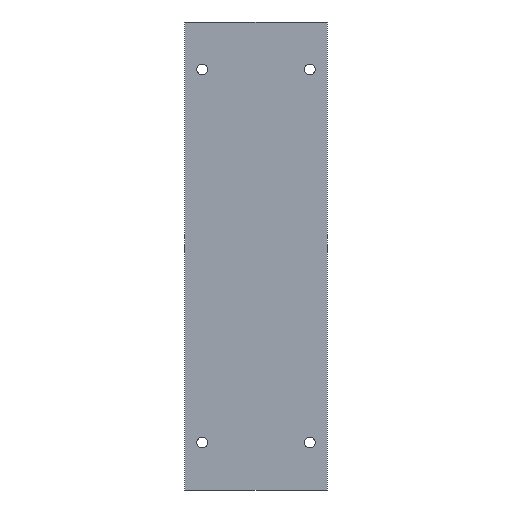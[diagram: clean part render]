
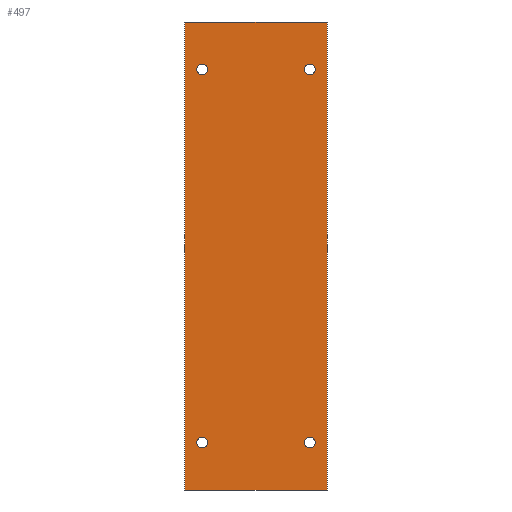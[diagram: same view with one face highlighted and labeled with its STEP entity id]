
A CAD part, front view. The second image highlights one B-rep face of the part: STEP entity #497.
In plain terms, the highlighted planar face has unit normal (0, -1, 0).
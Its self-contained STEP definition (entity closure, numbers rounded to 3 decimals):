
#7 = VERTEX_POINT ( 'NONE', #283 ) ;
#15 = LINE ( 'NONE', #332, #312 ) ;
#17 = VERTEX_POINT ( 'NONE', #338 ) ;
#23 = VERTEX_POINT ( 'NONE', #423 ) ;
#25 = FACE_BOUND ( 'NONE', #68, .T. ) ;
#27 = VERTEX_POINT ( 'NONE', #185 ) ;
#28 = VERTEX_POINT ( 'NONE', #47 ) ;
#31 = ORIENTED_EDGE ( 'NONE', *, *, #381, .F. ) ;
#33 = AXIS2_PLACEMENT_3D ( 'NONE', #573, #139, #616 ) ;
#34 = CARTESIAN_POINT ( 'NONE',  ( 34., 0., -118. ) ) ;
#45 = DIRECTION ( 'NONE',  ( 0., 0., -1. ) ) ;
#46 = DIRECTION ( 'NONE',  ( 0., 1., 0. ) ) ;
#47 = CARTESIAN_POINT ( 'NONE',  ( -45., 0., -148. ) ) ;
#67 = CARTESIAN_POINT ( 'NONE',  ( -45., 0., 148. ) ) ;
#68 = EDGE_LOOP ( 'NONE', ( #270, #552 ) ) ;
#71 = AXIS2_PLACEMENT_3D ( 'NONE', #580, #348, #433 ) ;
#79 = EDGE_CURVE ( 'NONE', #564, #171, #562, .T. ) ;
#81 = DIRECTION ( 'NONE',  ( 0., 1., 0. ) ) ;
#92 = FACE_BOUND ( 'NONE', #421, .T. ) ;
#98 = DIRECTION ( 'NONE',  ( 0., 1., 0. ) ) ;
#106 = CARTESIAN_POINT ( 'NONE',  ( 45., 0., -148. ) ) ;
#128 = VERTEX_POINT ( 'NONE', #148 ) ;
#132 = CIRCLE ( 'NONE', #450, 3.4 ) ;
#134 = EDGE_CURVE ( 'NONE', #397, #128, #530, .T. ) ;
#135 = DIRECTION ( 'NONE',  ( 0., 1., 0. ) ) ;
#137 = LINE ( 'NONE', #67, #460 ) ;
#139 = DIRECTION ( 'NONE',  ( 0., -1., 0. ) ) ;
#141 = CARTESIAN_POINT ( 'NONE',  ( 34., 0., 118. ) ) ;
#148 = CARTESIAN_POINT ( 'NONE',  ( 34., 0., 114.6 ) ) ;
#163 = AXIS2_PLACEMENT_3D ( 'NONE', #575, #135, #187 ) ;
#171 = VERTEX_POINT ( 'NONE', #106 ) ;
#173 = CARTESIAN_POINT ( 'NONE',  ( 34., 0., 121.4 ) ) ;
#177 = ORIENTED_EDGE ( 'NONE', *, *, #79, .F. ) ;
#179 = ORIENTED_EDGE ( 'NONE', *, *, #542, .F. ) ;
#180 = CIRCLE ( 'NONE', #163, 3.4 ) ;
#181 = CIRCLE ( 'NONE', #402, 3.4 ) ;
#185 = CARTESIAN_POINT ( 'NONE',  ( -34., 0., 114.6 ) ) ;
#187 = DIRECTION ( 'NONE',  ( 0., 0., 1. ) ) ;
#191 = DIRECTION ( 'NONE',  ( 0., 0., 1. ) ) ;
#194 = AXIS2_PLACEMENT_3D ( 'NONE', #141, #46, #291 ) ;
#205 = ORIENTED_EDGE ( 'NONE', *, *, #615, .T. ) ;
#239 = VERTEX_POINT ( 'NONE', #351 ) ;
#262 = DIRECTION ( 'NONE',  ( 0., 1., 0. ) ) ;
#266 = AXIS2_PLACEMENT_3D ( 'NONE', #413, #458, #267 ) ;
#267 = DIRECTION ( 'NONE',  ( 0., 0., 1. ) ) ;
#268 = EDGE_CURVE ( 'NONE', #239, #564, #137, .T. ) ;
#269 = DIRECTION ( 'NONE',  ( 0., 0., 1. ) ) ;
#270 = ORIENTED_EDGE ( 'NONE', *, *, #134, .T. ) ;
#283 = CARTESIAN_POINT ( 'NONE',  ( -34., 0., -121.4 ) ) ;
#291 = DIRECTION ( 'NONE',  ( 0., 0., 1. ) ) ;
#311 = EDGE_CURVE ( 'NONE', #549, #17, #181, .T. ) ;
#312 = VECTOR ( 'NONE', #386, 1000. ) ;
#314 = EDGE_LOOP ( 'NONE', ( #418, #205 ) ) ;
#315 = CARTESIAN_POINT ( 'NONE',  ( -34., 0., -118. ) ) ;
#317 = EDGE_CURVE ( 'NONE', #529, #7, #374, .T. ) ;
#318 = DIRECTION ( 'NONE',  ( -1., 0., 0. ) ) ;
#332 = CARTESIAN_POINT ( 'NONE',  ( -45., 0., 148. ) ) ;
#334 = CARTESIAN_POINT ( 'NONE',  ( 34., 0., -121.4 ) ) ;
#337 = VECTOR ( 'NONE', #45, 1000. ) ;
#338 = CARTESIAN_POINT ( 'NONE',  ( 34., 0., -114.6 ) ) ;
#342 = EDGE_CURVE ( 'NONE', #17, #549, #382, .T. ) ;
#344 = FACE_BOUND ( 'NONE', #314, .T. ) ;
#348 = DIRECTION ( 'NONE',  ( 0., 1., 0. ) ) ;
#351 = CARTESIAN_POINT ( 'NONE',  ( -45., 0., 148. ) ) ;
#361 = DIRECTION ( 'NONE',  ( 0., 1., 0. ) ) ;
#363 = CARTESIAN_POINT ( 'NONE',  ( -45., 0., -148. ) ) ;
#374 = CIRCLE ( 'NONE', #482, 3.4 ) ;
#380 = CIRCLE ( 'NONE', #522, 3.4 ) ;
#381 = EDGE_CURVE ( 'NONE', #171, #28, #396, .T. ) ;
#382 = CIRCLE ( 'NONE', #266, 3.4 ) ;
#384 = CARTESIAN_POINT ( 'NONE',  ( 45., 0., 148. ) ) ;
#386 = DIRECTION ( 'NONE',  ( 0., 0., 1. ) ) ;
#389 = EDGE_CURVE ( 'NONE', #7, #529, #132, .T. ) ;
#396 = LINE ( 'NONE', #363, #563 ) ;
#397 = VERTEX_POINT ( 'NONE', #173 ) ;
#402 = AXIS2_PLACEMENT_3D ( 'NONE', #34, #81, #456 ) ;
#413 = CARTESIAN_POINT ( 'NONE',  ( 34., 0., -118. ) ) ;
#418 = ORIENTED_EDGE ( 'NONE', *, *, #610, .T. ) ;
#421 = EDGE_LOOP ( 'NONE', ( #609, #558 ) ) ;
#423 = CARTESIAN_POINT ( 'NONE',  ( -34., 0., 121.4 ) ) ;
#428 = PLANE ( 'NONE',  #33 ) ;
#433 = DIRECTION ( 'NONE',  ( 0., 0., 1. ) ) ;
#435 = FACE_BOUND ( 'NONE', #544, .T. ) ;
#450 = AXIS2_PLACEMENT_3D ( 'NONE', #559, #361, #269 ) ;
#456 = DIRECTION ( 'NONE',  ( 0., 0., 1. ) ) ;
#458 = DIRECTION ( 'NONE',  ( 0., 1., 0. ) ) ;
#459 = FACE_OUTER_BOUND ( 'NONE', #501, .T. ) ;
#460 = VECTOR ( 'NONE', #588, 1000. ) ;
#471 = CARTESIAN_POINT ( 'NONE',  ( 45., 0., 148. ) ) ;
#477 = ORIENTED_EDGE ( 'NONE', *, *, #311, .T. ) ;
#478 = CARTESIAN_POINT ( 'NONE',  ( -34., 0., -114.6 ) ) ;
#482 = AXIS2_PLACEMENT_3D ( 'NONE', #315, #262, #500 ) ;
#497 = ADVANCED_FACE ( 'NONE', ( #344, #25, #435, #92, #459 ), #428, .T. ) ;
#500 = DIRECTION ( 'NONE',  ( 0., 0., 1. ) ) ;
#501 = EDGE_LOOP ( 'NONE', ( #177, #585, #179, #31 ) ) ;
#522 = AXIS2_PLACEMENT_3D ( 'NONE', #524, #98, #191 ) ;
#524 = CARTESIAN_POINT ( 'NONE',  ( -34., 0., 118. ) ) ;
#527 = EDGE_CURVE ( 'NONE', #128, #397, #538, .T. ) ;
#529 = VERTEX_POINT ( 'NONE', #478 ) ;
#530 = CIRCLE ( 'NONE', #71, 3.4 ) ;
#538 = CIRCLE ( 'NONE', #194, 3.4 ) ;
#542 = EDGE_CURVE ( 'NONE', #28, #239, #15, .T. ) ;
#544 = EDGE_LOOP ( 'NONE', ( #583, #477 ) ) ;
#549 = VERTEX_POINT ( 'NONE', #334 ) ;
#552 = ORIENTED_EDGE ( 'NONE', *, *, #527, .T. ) ;
#558 = ORIENTED_EDGE ( 'NONE', *, *, #389, .T. ) ;
#559 = CARTESIAN_POINT ( 'NONE',  ( -34., 0., -118. ) ) ;
#562 = LINE ( 'NONE', #384, #337 ) ;
#563 = VECTOR ( 'NONE', #318, 1000. ) ;
#564 = VERTEX_POINT ( 'NONE', #471 ) ;
#573 = CARTESIAN_POINT ( 'NONE',  ( 0., 0., 0. ) ) ;
#575 = CARTESIAN_POINT ( 'NONE',  ( -34., 0., 118. ) ) ;
#580 = CARTESIAN_POINT ( 'NONE',  ( 34., 0., 118. ) ) ;
#583 = ORIENTED_EDGE ( 'NONE', *, *, #342, .T. ) ;
#585 = ORIENTED_EDGE ( 'NONE', *, *, #268, .F. ) ;
#588 = DIRECTION ( 'NONE',  ( 1., 0., 0. ) ) ;
#609 = ORIENTED_EDGE ( 'NONE', *, *, #317, .T. ) ;
#610 = EDGE_CURVE ( 'NONE', #23, #27, #180, .T. ) ;
#615 = EDGE_CURVE ( 'NONE', #27, #23, #380, .T. ) ;
#616 = DIRECTION ( 'NONE',  ( 0., 0., -1. ) ) ;
